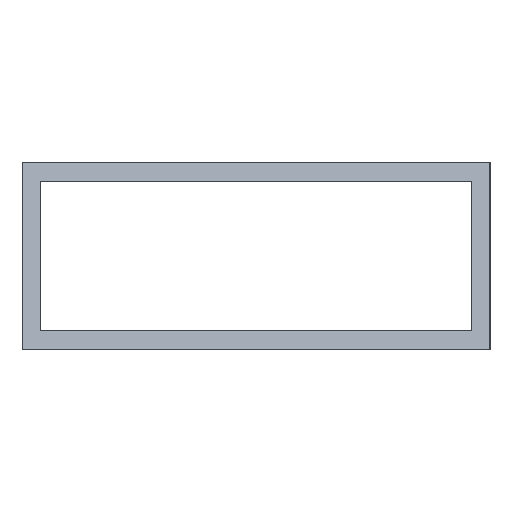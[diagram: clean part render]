
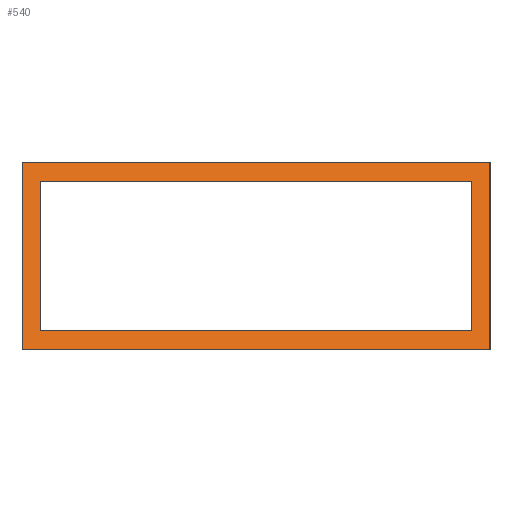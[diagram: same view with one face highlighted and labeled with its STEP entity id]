
A CAD part, left-side view. The second image highlights one B-rep face of the part: STEP entity #540.
In plain terms, the highlighted planar face has unit normal (-0.943, 0, 0.334).
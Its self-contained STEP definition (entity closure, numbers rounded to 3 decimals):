
#278=ORIENTED_EDGE('',*,*,#384,.T.);
#279=ORIENTED_EDGE('',*,*,#375,.T.);
#280=ORIENTED_EDGE('',*,*,#379,.T.);
#281=ORIENTED_EDGE('',*,*,#382,.T.);
#282=ORIENTED_EDGE('',*,*,#386,.T.);
#283=ORIENTED_EDGE('',*,*,#387,.T.);
#284=ORIENTED_EDGE('',*,*,#388,.T.);
#285=ORIENTED_EDGE('',*,*,#389,.T.);
#311=VECTOR('',#425,1.);
#315=VECTOR('',#431,1.);
#318=VECTOR('',#436,1.);
#320=VECTOR('',#440,1.);
#322=VECTOR('',#444,1.);
#323=VECTOR('',#445,1.);
#324=VECTOR('',#446,1.);
#325=VECTOR('',#447,1.);
#335=LINE('',#471,#311);
#339=LINE('',#479,#315);
#342=LINE('',#485,#318);
#344=LINE('',#488,#320);
#346=LINE('',#493,#322);
#347=LINE('',#495,#323);
#348=LINE('',#497,#324);
#349=LINE('',#498,#325);
#359=VERTEX_POINT('',#468);
#360=VERTEX_POINT('',#470);
#363=VERTEX_POINT('',#477);
#365=VERTEX_POINT('',#483);
#366=VERTEX_POINT('',#491);
#367=VERTEX_POINT('',#492);
#368=VERTEX_POINT('',#494);
#369=VERTEX_POINT('',#496);
#375=EDGE_CURVE('',#360,#359,#335,.T.);
#379=EDGE_CURVE('',#359,#363,#339,.T.);
#382=EDGE_CURVE('',#363,#365,#342,.T.);
#384=EDGE_CURVE('',#365,#360,#344,.T.);
#386=EDGE_CURVE('',#366,#367,#346,.T.);
#387=EDGE_CURVE('',#367,#368,#347,.T.);
#388=EDGE_CURVE('',#368,#369,#348,.T.);
#389=EDGE_CURVE('',#369,#366,#349,.T.);
#402=EDGE_LOOP('',(#278,#279,#280,#281));
#403=EDGE_LOOP('',(#282,#283,#284,#285));
#414=FACE_BOUND('',#402,.T.);
#415=FACE_BOUND('',#403,.T.);
#425=DIRECTION('',(7.082,0.,20.));
#431=DIRECTION('',(0.,50.,0.));
#436=DIRECTION('',(-7.082,0.,-20.));
#440=DIRECTION('',(0.,-50.,0.));
#442=DIRECTION('',(-0.943,0.,0.334));
#443=DIRECTION('',(0.,0.943,0.));
#444=DIRECTION('',(-5.666,0.,-16.));
#445=DIRECTION('',(0.,46.,0.));
#446=DIRECTION('',(5.666,0.,16.));
#447=DIRECTION('',(0.,-46.,0.));
#468=CARTESIAN_POINT('',(159.749,-25.,10.));
#470=CARTESIAN_POINT('',(152.666,-25.,-10.));
#471=CARTESIAN_POINT('',(152.666,-25.,-10.));
#477=CARTESIAN_POINT('',(159.749,25.,10.));
#479=CARTESIAN_POINT('',(159.749,-25.,10.));
#483=CARTESIAN_POINT('',(152.666,25.,-10.));
#485=CARTESIAN_POINT('',(159.749,25.,10.));
#488=CARTESIAN_POINT('',(152.666,25.,-10.));
#490=CARTESIAN_POINT('',(153.072,25.,-8.853));
#491=CARTESIAN_POINT('',(159.04,-23.,8.));
#492=CARTESIAN_POINT('',(153.374,-23.,-8.));
#493=CARTESIAN_POINT('',(159.04,-23.,8.));
#494=CARTESIAN_POINT('',(153.374,23.,-8.));
#495=CARTESIAN_POINT('',(153.374,-23.,-8.));
#496=CARTESIAN_POINT('',(159.04,23.,8.));
#497=CARTESIAN_POINT('',(153.374,23.,-8.));
#498=CARTESIAN_POINT('',(159.04,23.,8.));
#520=AXIS2_PLACEMENT_3D('',#490,#442,#443);
#530=PLANE('',#520);
#540=ADVANCED_FACE('',(#414,#415),#530,.T.);
